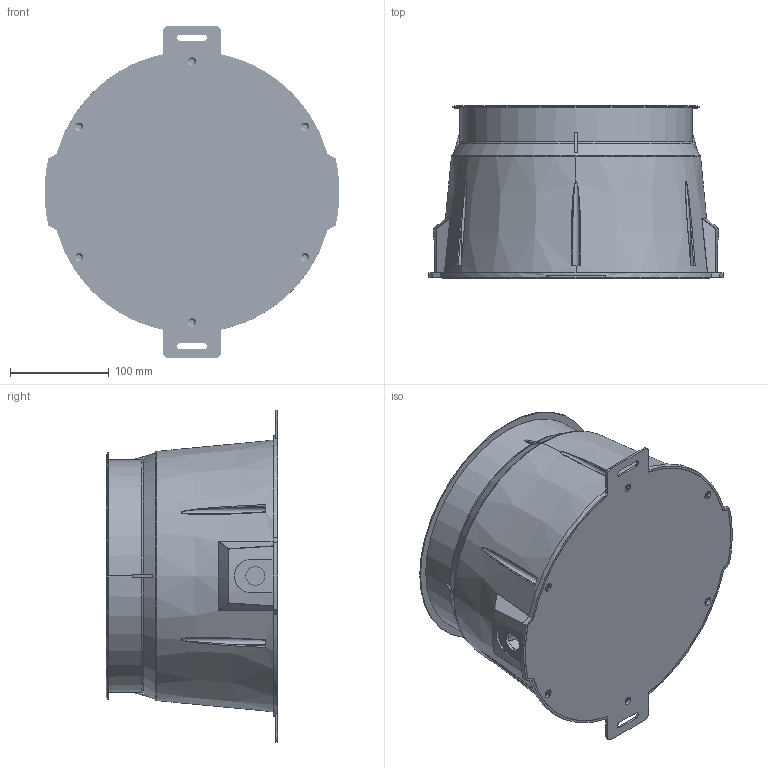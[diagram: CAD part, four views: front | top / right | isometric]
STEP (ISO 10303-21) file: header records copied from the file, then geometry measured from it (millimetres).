
FILE_DESCRIPTION((''),'2;1');
FILE_NAME('4FB-XIAOLENS_ASM','2024-11-12T',('Administrator'),(''),'CREO PARAMETRIC BY PTC INC, 2014500','CREO PARAMETRIC BY PTC INC, 2014500','');
FILE_SCHEMA(('CONFIG_CONTROL_DESIGN'));
Length unit declared in the file: millimetre
Products named in the file (31): 4FA-DENGTI; PAR-56_ASM; LUO-MAO-1_2_3; LUO-GAN-2_1_2; DIAN-QUAN-5_1_2; 4XCX_4_2; PG11_ASM; SUS304BOSS; 4FB_PAR56_ASM; 4FA-MIANGAI; GLASS; 4FAFANGSHUI; COVER-ASSEM_ASM; 4FA-HEAT00; 4FA-SANREBAN; 4FALJB-49; B15; B15-0; B15-1; B15-2; 003_ASM; B15-4; B15-5; 002_ASM; 4FB-FGQ-006; 4FB_2021-12-17-3-YAQUAN; 4FB-NEW-SLEEVE_3; 4FB-YMT-DIGAI_3; 4FBFST_3; 4FB-SLEEVE_ASM; 4FB-XIAOLENS_ASM
Assembly tree (43 placements, depth 4):
  4FB-XIAOLENS_ASM
    4FB_PAR56_ASM
      PAR-56_ASM
        4FA-DENGTI
      PG11_ASM
        LUO-MAO-1_2_3
        LUO-GAN-2_1_2
        DIAN-QUAN-5_1_2
        4XCX_4_2
      SUS304BOSS  x8
    COVER-ASSEM_ASM
      4FA-MIANGAI
      GLASS
      4FAFANGSHUI
    4FA-HEAT00
    4FA-SANREBAN
    4FALJB-49
    003_ASM  x4
      B15
      B15-0
      B15-1
      B15-2
    002_ASM  x4
      B15-4
      B15-5
    4FB-FGQ-006
    4FB_2021-12-17-3-YAQUAN
    4FB-SLEEVE_ASM
      4FB-NEW-SLEEVE_3
      4FB-YMT-DIGAI_3
      4FBFST_3
Bounding box: 298.44 x 174 x 336 mm (x, y, z)
Volume: 1408020.8 mm3; surface area: 1160311.7 mm2
Topology: 48 solids, 48 shells, 4608 faces, 13406 edges, 8833 vertices
Faces by surface type: plane 2723, cylinder 1240, cone 271, torus 202, bspline 168, sphere 4
Entity records: 112346 total; most frequent: CARTESIAN_POINT 35503, ORIENTED_EDGE 16496, DIRECTION 15580, EDGE_CURVE 8248, AXIS2_PLACEMENT_3D 5491, VERTEX_POINT 5466, VECTOR 4598, LINE 4598
